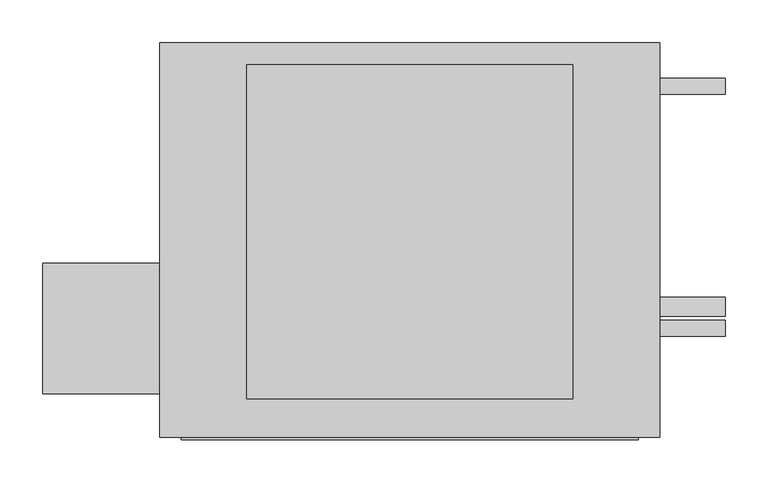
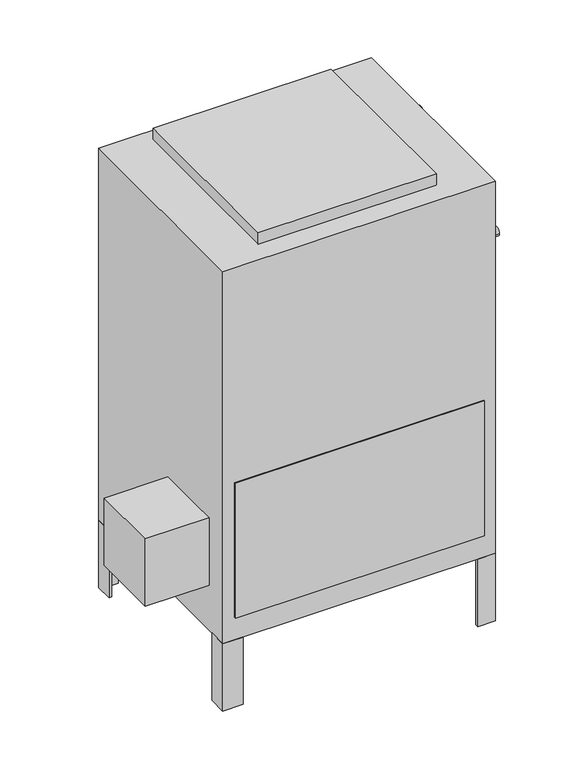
"""IFC4 building model written with IfcOpenShell, lengths in millimetres: proxy geometry, Concealed_High_Capacity_Vertical_Fan_Coil_Unit_-_42DDA_-_CARRIER_-_2-Pipe_Cool-EHeat_RH_2022 : Size 06 - 277v/60Hz/1Ph - 6 Row 4.0kW."""

from ifc_helpers import new_model, si_unit, point, frame, frame_2d, origin, origin_with_axes, place, context, project, spatial, polyline, circle_curve, trimmed, segment, composite_curve, outline, extrude, source, transform, mapped, element, save


def mechanical_equipment_77015d4e(model_context):
    return source(origin(), model_context, "Body", "SweptSolid", [
        extrude(outline(polyline([(-276.225, -417.5125), (-276.225, -265.1125), (-139.7, -265.1125), (-139.7, -417.5125), (-276.225, -417.5125)])), frame((0.0, 0.0, 101.6), z_axis=(0.0, 0.0, 1.0), x_axis=(1.0, 0.0, 0.0)), (0.0, 0.0, 1.0), 152.4),
        extrude(outline(polyline([(444.5, -46.0375), (438.15, -46.0375), (438.15, -14.2875), (406.4, -14.2875), (406.4, -7.9375), (444.5, -7.9375), (444.5, -46.0375)])), frame((0.0, 0.0, -152.4), z_axis=(0.0, 0.0, 1.0), x_axis=(1.0, 0.0, 0.0)), (0.0, 0.0, 1.0), 152.4),
        extrude(outline(polyline([(-101.6, -7.9375), (-101.6, -14.2875), (-133.35, -14.2875), (-133.35, -46.0375), (-139.7, -46.0375), (-139.7, -7.9375), (-101.6, -7.9375)])), frame((0.0, 0.0, -152.4), z_axis=(0.0, 0.0, 1.0), x_axis=(1.0, 0.0, 0.0)), (0.0, 0.0, 1.0), 152.4),
        extrude(outline(polyline([(406.4, -468.3125), (406.4, -461.9625), (438.15, -461.9625), (438.15, -430.2125), (444.5, -430.2125), (444.5, -468.3125), (406.4, -468.3125)])), frame((0.0, 0.0, -152.4), z_axis=(0.0, 0.0, 1.0), x_axis=(1.0, 0.0, 0.0)), (0.0, 0.0, 1.0), 152.4),
        extrude(outline(polyline([(-139.7, -428.1199163), (-133.35, -428.1199163), (-133.35, -461.9625), (-96.2318533, -461.9625), (-96.2318533, -468.3125), (-139.7, -468.3125), (-139.7, -428.1199163)])), frame((0.0, 0.0, -152.4), z_axis=(0.0, 0.0, 1.0), x_axis=(1.0, 0.0, 0.0)), (0.0, 0.0, 1.0), 152.4),
        extrude(outline(polyline([(342.9, -33.3375), (342.9, -423.8625), (-38.1, -423.8625), (-38.1, -33.3375), (342.9, -33.3375)])), frame((0.0, 0.0, 841.375), z_axis=(0.0, 0.0, 1.0), x_axis=(1.0, 0.0, 0.0)), (0.0, 0.0, 1.0), 25.4),
        extrude(outline(polyline([(419.1, -471.4875), (-114.3, -471.4875), (-114.3, -468.3125), (419.1, -468.3125), (419.1, -471.4875)])), frame((0.0, 0.0, 50.8), z_axis=(0.0, 0.0, 1.0), x_axis=(1.0, 0.0, 0.0)), (0.0, 0.0, 1.0), 304.8),
        extrude(outline(composite_curve([segment(trimmed(circle_curve(frame_2d((-58.7375, 727.075)), 9.525), [point((-49.2125, 727.075))], [point((-68.2625, 727.075))], False, "CARTESIAN"), True, "CONTINUOUS"), segment(trimmed(circle_curve(frame_2d((-58.7375, 727.075)), 9.525), [point((-68.2625, 727.075))], [point((-49.2125, 727.075))], False, "CARTESIAN"), True, "CONTINUOUS")], self_intersect=False)), frame((444.5, 0.0, 0.0), z_axis=(1.0, 0.0, 0.0), x_axis=(0.0, 1.0, 0.0)), (0.0, 0.0, 1.0), 76.2),
        extrude(outline(composite_curve([segment(trimmed(circle_curve(frame_2d((-341.3125, 625.475)), 9.525), [point((-331.7875, 625.475))], [point((-350.8375, 625.475))], False, "CARTESIAN"), True, "CONTINUOUS"), segment(trimmed(circle_curve(frame_2d((-341.3125, 625.475)), 9.525), [point((-350.8375, 625.475))], [point((-331.7875, 625.475))], False, "CARTESIAN"), True, "CONTINUOUS")], self_intersect=False)), frame((444.5, 0.0, 0.0), z_axis=(1.0, 0.0, 0.0), x_axis=(0.0, 1.0, 0.0)), (0.0, 0.0, 1.0), 76.2),
        extrude(outline(composite_curve([segment(trimmed(circle_curve(frame_2d((-315.9125, 536.575)), 11.1125), [point((-304.8, 536.575))], [point((-327.025, 536.575))], False, "CARTESIAN"), True, "CONTINUOUS"), segment(trimmed(circle_curve(frame_2d((-315.9125, 536.575)), 11.1125), [point((-327.025, 536.575))], [point((-304.8, 536.575))], False, "CARTESIAN"), True, "CONTINUOUS")], self_intersect=False)), frame((444.5, 0.0, 0.0), z_axis=(1.0, 0.0, 0.0), x_axis=(0.0, 1.0, 0.0)), (0.0, 0.0, 1.0), 76.2),
        extrude(outline(polyline([(444.5, -7.9375), (444.5, -468.3125), (-139.7, -468.3125), (-139.7, -7.9375), (444.5, -7.9375)])), origin_with_axes(), (0.0, 0.0, 1.0), 841.375),
    ])


if __name__ == "__main__":
    model = new_model("IFC4")
    model_context = context("Model", 3, world=origin())
    ifc_project = project(units=[si_unit("LENGTHUNIT", "METRE", prefix="MILLI")], contexts=[model_context])
    site = spatial("IfcSite", under=ifc_project)
    building = spatial("IfcBuilding", under=site)
    placement = place(None, origin())
    mechanical_equipment_shape = mechanical_equipment_77015d4e(model_context)
    element("IfcBuildingElementProxy", 1, Name="Concealed_High_Capacity_Vertical_Fan_Coil_Unit_-_42DDA_-_CARRIER_-_2-Pipe_Cool-EHeat_RH_2022 : Size 06 - 277v/60Hz/1Ph - 6 Row 4.0kW", ObjectType="Concealed_High_Capacity_Vertical_Fan_Coil_Unit_-_42DDA_-_CARRIER_-_2-Pipe_Cool-EHeat_RH_2022 : Size 06 - 277v/60Hz/1Ph - 6 Row 4.0kW", at=placement, inside=building, context=model_context, shape_type="MappedRepresentation", body=[
        mapped(mechanical_equipment_shape, transform((0.0, 0.0, 0.0), x_axis=(1.0, 0.0, 0.0), y_axis=(0.0, 1.0, 0.0), z_axis=(0.0, 0.0, 1.0))),
    ])
    save(model, "model.ifc")
